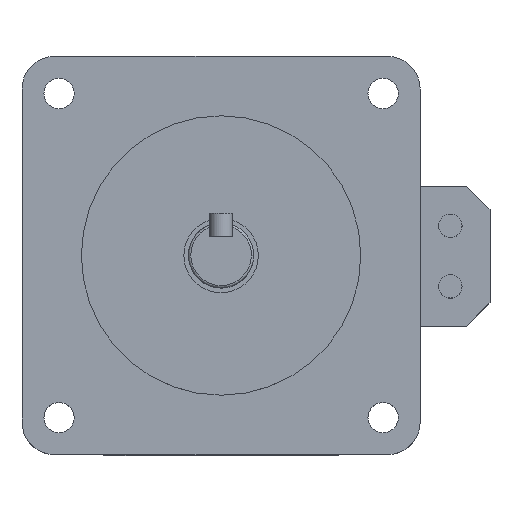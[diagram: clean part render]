
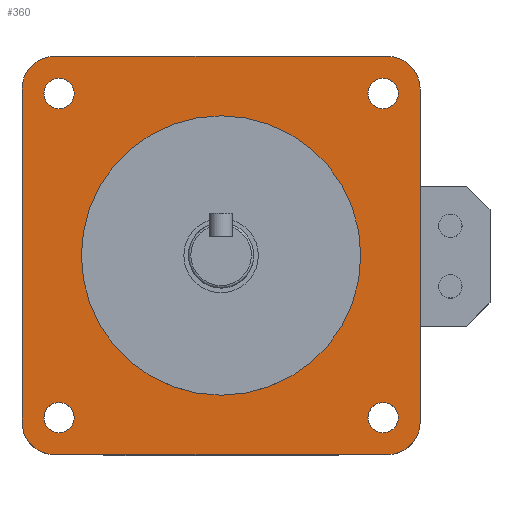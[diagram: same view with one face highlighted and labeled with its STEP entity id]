
A CAD part, top view. The second image highlights one B-rep face of the part: STEP entity #360.
In plain terms, the highlighted planar face has unit normal (0, 0, 1).
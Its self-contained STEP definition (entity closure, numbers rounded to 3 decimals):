
#360=ADVANCED_FACE('',(#1165,#1166,#1167,#1168,#1169,#1170),#538,.T.);
#538=PLANE('',#3222);
#637=LINE('',#4572,#905);
#638=LINE('',#4577,#906);
#639=LINE('',#4581,#907);
#640=LINE('',#4585,#908);
#905=VECTOR('',#3603,1.);
#906=VECTOR('',#3606,1.);
#907=VECTOR('',#3609,1.);
#908=VECTOR('',#3612,1.);
#1165=FACE_BOUND('',#1216,.T.);
#1166=FACE_BOUND('',#1217,.T.);
#1167=FACE_BOUND('',#1218,.T.);
#1168=FACE_BOUND('',#1219,.T.);
#1169=FACE_BOUND('',#1220,.T.);
#1170=FACE_BOUND('',#1221,.T.);
#1216=EDGE_LOOP('',(#1450));
#1217=EDGE_LOOP('',(#1451));
#1218=EDGE_LOOP('',(#1452,#1453,#1454,#1455,#1456,#1457,#1458,#1459));
#1219=EDGE_LOOP('',(#1460));
#1220=EDGE_LOOP('',(#1461));
#1221=EDGE_LOOP('',(#1462));
#1450=ORIENTED_EDGE('',*,*,#2619,.F.);
#1451=ORIENTED_EDGE('',*,*,#2620,.F.);
#1452=ORIENTED_EDGE('',*,*,#2621,.T.);
#1453=ORIENTED_EDGE('',*,*,#2622,.T.);
#1454=ORIENTED_EDGE('',*,*,#2623,.T.);
#1455=ORIENTED_EDGE('',*,*,#2624,.T.);
#1456=ORIENTED_EDGE('',*,*,#2625,.T.);
#1457=ORIENTED_EDGE('',*,*,#2626,.T.);
#1458=ORIENTED_EDGE('',*,*,#2627,.T.);
#1459=ORIENTED_EDGE('',*,*,#2628,.T.);
#1460=ORIENTED_EDGE('',*,*,#2629,.F.);
#1461=ORIENTED_EDGE('',*,*,#2630,.F.);
#1462=ORIENTED_EDGE('',*,*,#2631,.T.);
#2328=VERTEX_POINT('',#4569);
#2329=VERTEX_POINT('',#4571);
#2330=VERTEX_POINT('',#4573);
#2331=VERTEX_POINT('',#4574);
#2332=VERTEX_POINT('',#4576);
#2333=VERTEX_POINT('',#4578);
#2334=VERTEX_POINT('',#4580);
#2335=VERTEX_POINT('',#4582);
#2336=VERTEX_POINT('',#4584);
#2337=VERTEX_POINT('',#4586);
#2338=VERTEX_POINT('',#4589);
#2339=VERTEX_POINT('',#4591);
#2340=VERTEX_POINT('',#4593);
#2619=EDGE_CURVE('',#2328,#2328,#3042,.T.);
#2620=EDGE_CURVE('',#2329,#2329,#3043,.T.);
#2621=EDGE_CURVE('',#2330,#2331,#637,.T.);
#2622=EDGE_CURVE('',#2331,#2332,#3044,.T.);
#2623=EDGE_CURVE('',#2332,#2333,#638,.T.);
#2624=EDGE_CURVE('',#2333,#2334,#3045,.T.);
#2625=EDGE_CURVE('',#2334,#2335,#639,.T.);
#2626=EDGE_CURVE('',#2335,#2336,#3046,.T.);
#2627=EDGE_CURVE('',#2336,#2337,#640,.T.);
#2628=EDGE_CURVE('',#2337,#2330,#3047,.T.);
#2629=EDGE_CURVE('',#2338,#2338,#3048,.T.);
#2630=EDGE_CURVE('',#2339,#2339,#3049,.T.);
#2631=EDGE_CURVE('',#2340,#2340,#3050,.T.);
#3042=CIRCLE('',#3213,3.25);
#3043=CIRCLE('',#3214,3.25);
#3044=CIRCLE('',#3215,7.);
#3045=CIRCLE('',#3216,7.);
#3046=CIRCLE('',#3217,7.);
#3047=CIRCLE('',#3218,7.);
#3048=CIRCLE('',#3219,30.);
#3049=CIRCLE('',#3220,3.25);
#3050=CIRCLE('',#3221,3.25);
#3213=AXIS2_PLACEMENT_3D('',#4568,#3599,#3600);
#3214=AXIS2_PLACEMENT_3D('',#4570,#3601,#3602);
#3215=AXIS2_PLACEMENT_3D('',#4575,#3604,#3605);
#3216=AXIS2_PLACEMENT_3D('',#4579,#3607,#3608);
#3217=AXIS2_PLACEMENT_3D('',#4583,#3610,#3611);
#3218=AXIS2_PLACEMENT_3D('',#4587,#3613,#3614);
#3219=AXIS2_PLACEMENT_3D('',#4588,#3615,#3616);
#3220=AXIS2_PLACEMENT_3D('',#4590,#3617,#3618);
#3221=AXIS2_PLACEMENT_3D('',#4592,#3619,#3620);
#3222=AXIS2_PLACEMENT_3D('',#4594,#3621,#3622);
#3599=DIRECTION('',(0.,0.,1.));
#3600=DIRECTION('',(1.,0.,0.));
#3601=DIRECTION('',(0.,0.,1.));
#3602=DIRECTION('',(1.,0.,0.));
#3603=DIRECTION('',(0.,-1.,0.));
#3604=DIRECTION('',(0.,0.,1.));
#3605=DIRECTION('',(1.,0.,0.));
#3606=DIRECTION('',(1.,0.,0.));
#3607=DIRECTION('',(0.,0.,1.));
#3608=DIRECTION('',(1.,0.,0.));
#3609=DIRECTION('',(0.,1.,0.));
#3610=DIRECTION('',(0.,0.,1.));
#3611=DIRECTION('',(1.,0.,0.));
#3612=DIRECTION('',(-1.,0.,0.));
#3613=DIRECTION('',(0.,0.,1.));
#3614=DIRECTION('',(1.,0.,0.));
#3615=DIRECTION('',(0.,0.,1.));
#3616=DIRECTION('',(1.,0.,0.));
#3617=DIRECTION('',(0.,0.,1.));
#3618=DIRECTION('',(1.,0.,0.));
#3619=DIRECTION('',(0.,0.,-1.));
#3620=DIRECTION('',(1.,0.,0.));
#3621=DIRECTION('',(0.,0.,1.));
#3622=DIRECTION('',(1.,0.,0.));
#4568=CARTESIAN_POINT('',(34.8,-34.8,0.));
#4569=CARTESIAN_POINT('',(38.05,-34.8,0.));
#4570=CARTESIAN_POINT('',(-34.8,34.8,0.));
#4571=CARTESIAN_POINT('',(-31.55,34.8,0.));
#4572=CARTESIAN_POINT('',(-42.75,42.75,0.));
#4573=CARTESIAN_POINT('',(-42.75,35.75,0.));
#4574=CARTESIAN_POINT('',(-42.75,-35.75,0.));
#4575=CARTESIAN_POINT('',(-35.75,-35.75,0.));
#4576=CARTESIAN_POINT('',(-35.75,-42.75,0.));
#4577=CARTESIAN_POINT('',(-42.75,-42.75,0.));
#4578=CARTESIAN_POINT('',(35.75,-42.75,0.));
#4579=CARTESIAN_POINT('',(35.75,-35.75,0.));
#4580=CARTESIAN_POINT('',(42.75,-35.75,0.));
#4581=CARTESIAN_POINT('',(42.75,-42.75,0.));
#4582=CARTESIAN_POINT('',(42.75,35.75,0.));
#4583=CARTESIAN_POINT('',(35.75,35.75,0.));
#4584=CARTESIAN_POINT('',(35.75,42.75,0.));
#4585=CARTESIAN_POINT('',(42.75,42.75,0.));
#4586=CARTESIAN_POINT('',(-35.75,42.75,0.));
#4587=CARTESIAN_POINT('',(-35.75,35.75,0.));
#4588=CARTESIAN_POINT('',(0.,0.,0.));
#4589=CARTESIAN_POINT('',(30.,0.,0.));
#4590=CARTESIAN_POINT('',(34.8,34.8,0.));
#4591=CARTESIAN_POINT('',(38.05,34.8,0.));
#4592=CARTESIAN_POINT('',(-34.8,-34.8,0.));
#4593=CARTESIAN_POINT('',(-31.55,-34.8,0.));
#4594=CARTESIAN_POINT('',(42.75,42.75,0.));
